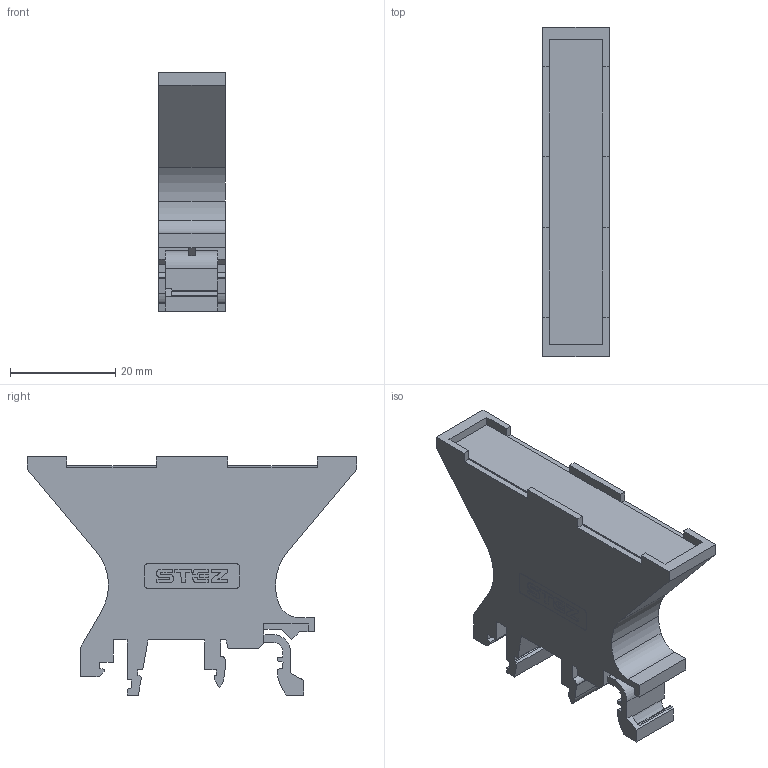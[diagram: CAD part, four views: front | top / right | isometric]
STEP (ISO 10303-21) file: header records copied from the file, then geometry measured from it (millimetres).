
FILE_DESCRIPTION(('TFLEX Exchange Step'),'2;1');
FILE_NAME('15100010_ДМР_60х10.stp', '2024-05-03T08:46:10+03:00',('apanin'),('Unknown organisation'),'TFLEX Exchange 2023.2','T-FLEX CAD','Unknown authorisation');
FILE_SCHEMA( ('AUTOMOTIVE_DESIGN { 1 0 10303 214 1 1 1 1 }') );
Length unit declared in the file: millimetre
Products named in the file (1): Тело_1 - UBE_D_60x10-select:1
Bounding box: 12.6 x 62.6 x 45.3 mm (x, y, z)
Volume: 19182.3 mm3; surface area: 6911.5 mm2
Topology: 1 solids, 1 shells, 337 faces, 976 edges, 648 vertices
Faces by surface type: cylinder 175, plane 162
Entity records: 11220 total; most frequent: DIRECTION 2002, CARTESIAN_POINT 1962, ORIENTED_EDGE 1952, EDGE_CURVE 976, AXIS2_PLACEMENT_3D 688, VERTEX_POINT 648, VECTOR 626, LINE 626
